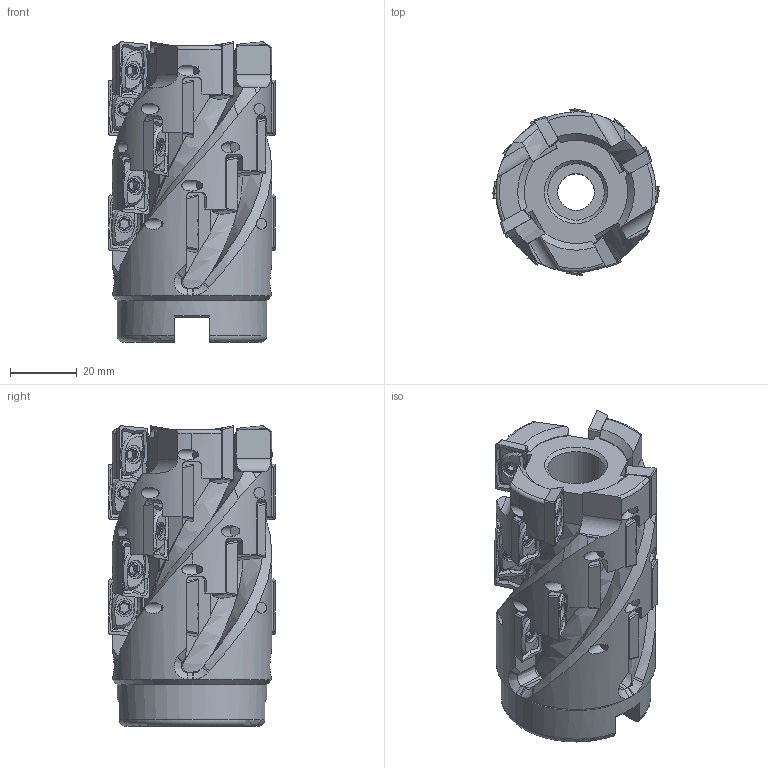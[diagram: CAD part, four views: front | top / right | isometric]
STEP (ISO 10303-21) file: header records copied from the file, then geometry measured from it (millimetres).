
FILE_DESCRIPTION(/* description */ (''),/* implementation_level */ '2;1');
FILE_NAME(/* name */ 'Z:\Проектный отдел\Данила\режущий инструмент\EAP400R-50-22-60M-4T-20P\EAP400R-50-22-60M-4T-20P.stp',/* time_stamp */ '2023-11-27T09:42:59+03:00',/* author */ ('Арина'),/* organization */ (''),/* preprocessor_version */ 'ST-DEVELOPER v18',/* originating_system */ 'Autodesk Inventor 2020',/* authorisation */ '');
FILE_SCHEMA (('AUTOMOTIVE_DESIGN { 1 0 10303 214 3 1 1 }'));
Length unit declared in the file: millimetre
Products named in the file (4): Сборка1; Деталь3; Напайка; болт
Assembly tree (41 placements, depth 2):
  Сборка1
    Деталь3
    Напайка  x20
    болт  x20
Bounding box: 49.99 x 49.99 x 90.21 mm (x, y, z)
Volume: 101318.1 mm3; surface area: 41876.3 mm2
Topology: 41 solids, 41 shells, 1529 faces, 3976 edges, 2584 vertices
Faces by surface type: cylinder 447, plane 400, bspline 380, cone 276, torus 26
Full cylindrical faces by diameter (mm): 3.3 x40, 4.2 x20, 5.5 x20, 11 x1, 17 x1, 22 x1, 45 x1, 48 x1
Entity records: 16810 total; most frequent: CARTESIAN_POINT 7471, ORIENTED_EDGE 2138, DIRECTION 1578, EDGE_CURVE 1069, VERTEX_POINT 722, AXIS2_PLACEMENT_3D 565, LINE 448, VECTOR 448
